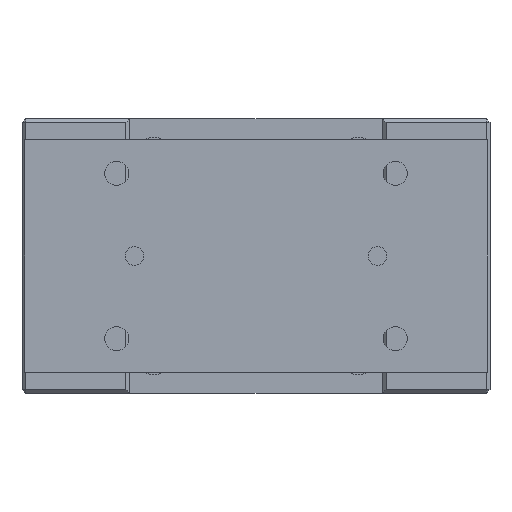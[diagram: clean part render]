
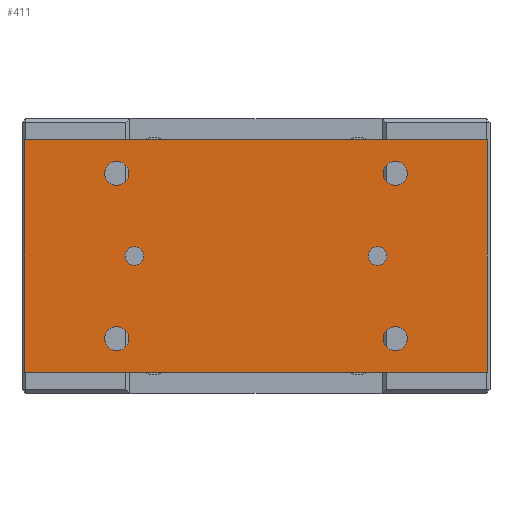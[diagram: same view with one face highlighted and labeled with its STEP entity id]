
A CAD part, left-side view. The second image highlights one B-rep face of the part: STEP entity #411.
In plain terms, the highlighted planar face has unit normal (-1, 0, 0).
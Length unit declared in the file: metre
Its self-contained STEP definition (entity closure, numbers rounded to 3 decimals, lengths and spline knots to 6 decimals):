
#411 = ADVANCED_FACE( '', ( #1029, #1030, #1031, #1032, #1033, #1034, #1035 ), #1036, .T. );
#1029 = FACE_BOUND( '', #1919, .T. );
#1030 = FACE_BOUND( '', #1920, .T. );
#1031 = FACE_BOUND( '', #1921, .T. );
#1032 = FACE_BOUND( '', #1922, .T. );
#1033 = FACE_BOUND( '', #1923, .T. );
#1034 = FACE_BOUND( '', #1924, .T. );
#1035 = FACE_OUTER_BOUND( '', #1925, .T. );
#1036 = PLANE( '', #1926 );
#1919 = EDGE_LOOP( '', ( #3052 ) );
#1920 = EDGE_LOOP( '', ( #3053 ) );
#1921 = EDGE_LOOP( '', ( #3054 ) );
#1922 = EDGE_LOOP( '', ( #3055 ) );
#1923 = EDGE_LOOP( '', ( #3056 ) );
#1924 = EDGE_LOOP( '', ( #3057 ) );
#1925 = EDGE_LOOP( '', ( #3058, #3059, #3060, #3061 ) );
#1926 = AXIS2_PLACEMENT_3D( '', #3062, #3063, #3064 );
#3052 = ORIENTED_EDGE( '', *, *, #4283, .F. );
#3053 = ORIENTED_EDGE( '', *, *, #4548, .T. );
#3054 = ORIENTED_EDGE( '', *, *, #4549, .F. );
#3055 = ORIENTED_EDGE( '', *, *, #4550, .F. );
#3056 = ORIENTED_EDGE( '', *, *, #4551, .F. );
#3057 = ORIENTED_EDGE( '', *, *, #4552, .F. );
#3058 = ORIENTED_EDGE( '', *, *, #4335, .T. );
#3059 = ORIENTED_EDGE( '', *, *, #4553, .T. );
#3060 = ORIENTED_EDGE( '', *, *, #4554, .T. );
#3061 = ORIENTED_EDGE( '', *, *, #4555, .T. );
#3062 = CARTESIAN_POINT( '', ( -0.143, -0.1245, -0.0115 ) );
#3063 = DIRECTION( '', ( -1., 0., 0. ) );
#3064 = DIRECTION( '', ( 0., 0., 1. ) );
#4283 = EDGE_CURVE( '', #4923, #4923, #4924, .T. );
#4335 = EDGE_CURVE( '', #5016, #5014, #5017, .T. );
#4548 = EDGE_CURVE( '', #5359, #5359, #5360, .T. );
#4549 = EDGE_CURVE( '', #5361, #5361, #5362, .T. );
#4550 = EDGE_CURVE( '', #5363, #5363, #5364, .T. );
#4551 = EDGE_CURVE( '', #5365, #5365, #5366, .T. );
#4552 = EDGE_CURVE( '', #5367, #5367, #5368, .T. );
#4553 = EDGE_CURVE( '', #5014, #5369, #5370, .T. );
#4554 = EDGE_CURVE( '', #5369, #5371, #5372, .T. );
#4555 = EDGE_CURVE( '', #5371, #5016, #5373, .T. );
#4923 = VERTEX_POINT( '', #5853 );
#4924 = CIRCLE( '', #5854, 0.005 );
#5014 = VERTEX_POINT( '', #5970 );
#5016 = VERTEX_POINT( '', #5973 );
#5017 = LINE( '', #5974, #5975 );
#5359 = VERTEX_POINT( '', #6608 );
#5360 = CIRCLE( '', #6609, 0.005 );
#5361 = VERTEX_POINT( '', #6610 );
#5362 = CIRCLE( '', #6611, 0.0065 );
#5363 = VERTEX_POINT( '', #6612 );
#5364 = CIRCLE( '', #6613, 0.0065 );
#5365 = VERTEX_POINT( '', #6614 );
#5366 = CIRCLE( '', #6615, 0.0065 );
#5367 = VERTEX_POINT( '', #6616 );
#5368 = CIRCLE( '', #6617, 0.0065 );
#5369 = VERTEX_POINT( '', #6618 );
#5370 = LINE( '', #6619, #6620 );
#5371 = VERTEX_POINT( '', #6621 );
#5372 = LINE( '', #6622, #6623 );
#5373 = LINE( '', #6624, #6625 );
#5853 = CARTESIAN_POINT( '', ( -0.143, -0.0705, -0.074 ) );
#5854 = AXIS2_PLACEMENT_3D( '', #7285, #7286, #7287 );
#5970 = CARTESIAN_POINT( '', ( -0.143, -0.1245, -0.0115 ) );
#5973 = CARTESIAN_POINT( '', ( -0.143, -0.1245, -0.1365 ) );
#5974 = CARTESIAN_POINT( '', ( -0.143, -0.1245, -0.1365 ) );
#5975 = VECTOR( '', #7354, 1. );
#6608 = CARTESIAN_POINT( '', ( -0.143, 0.0705, -0.074 ) );
#6609 = AXIS2_PLACEMENT_3D( '', #7604, #7605, #7606 );
#6610 = CARTESIAN_POINT( '', ( -0.143, -0.075, -0.112 ) );
#6611 = AXIS2_PLACEMENT_3D( '', #7607, #7608, #7609 );
#6612 = CARTESIAN_POINT( '', ( -0.143, 0.075, -0.112 ) );
#6613 = AXIS2_PLACEMENT_3D( '', #7610, #7611, #7612 );
#6614 = CARTESIAN_POINT( '', ( -0.143, -0.075, -0.023 ) );
#6615 = AXIS2_PLACEMENT_3D( '', #7613, #7614, #7615 );
#6616 = CARTESIAN_POINT( '', ( -0.143, 0.075, -0.023 ) );
#6617 = AXIS2_PLACEMENT_3D( '', #7616, #7617, #7618 );
#6618 = CARTESIAN_POINT( '', ( -0.143, 0.1245, -0.0115 ) );
#6619 = CARTESIAN_POINT( '', ( -0.143, -0.1245, -0.0115 ) );
#6620 = VECTOR( '', #7619, 1. );
#6621 = CARTESIAN_POINT( '', ( -0.143, 0.1245, -0.1365 ) );
#6622 = CARTESIAN_POINT( '', ( -0.143, 0.1245, -0.0115 ) );
#6623 = VECTOR( '', #7620, 1. );
#6624 = CARTESIAN_POINT( '', ( -0.143, 0.1245, -0.1365 ) );
#6625 = VECTOR( '', #7621, 1. );
#7285 = CARTESIAN_POINT( '', ( -0.143, -0.0655, -0.074 ) );
#7286 = DIRECTION( '', ( -1., 0., 0. ) );
#7287 = DIRECTION( '', ( 0., -1., 0. ) );
#7354 = DIRECTION( '', ( 0., 0., 1. ) );
#7604 = CARTESIAN_POINT( '', ( -0.143, 0.0655, -0.074 ) );
#7605 = DIRECTION( '', ( 1., 0., 0. ) );
#7606 = DIRECTION( '', ( 0., 1., 0. ) );
#7607 = CARTESIAN_POINT( '', ( -0.143, -0.075, -0.1185 ) );
#7608 = DIRECTION( '', ( -1., 0., 0. ) );
#7609 = DIRECTION( '', ( 0., 0., 1. ) );
#7610 = CARTESIAN_POINT( '', ( -0.143, 0.075, -0.1185 ) );
#7611 = DIRECTION( '', ( -1., 0., 0. ) );
#7612 = DIRECTION( '', ( 0., 0., 1. ) );
#7613 = CARTESIAN_POINT( '', ( -0.143, -0.075, -0.0295 ) );
#7614 = DIRECTION( '', ( -1., 0., 0. ) );
#7615 = DIRECTION( '', ( 0., 0., 1. ) );
#7616 = CARTESIAN_POINT( '', ( -0.143, 0.075, -0.0295 ) );
#7617 = DIRECTION( '', ( -1., 0., 0. ) );
#7618 = DIRECTION( '', ( 0., 0., 1. ) );
#7619 = DIRECTION( '', ( 0., 1., 0. ) );
#7620 = DIRECTION( '', ( 0., 0., -1. ) );
#7621 = DIRECTION( '', ( 0., -1., 0. ) );
